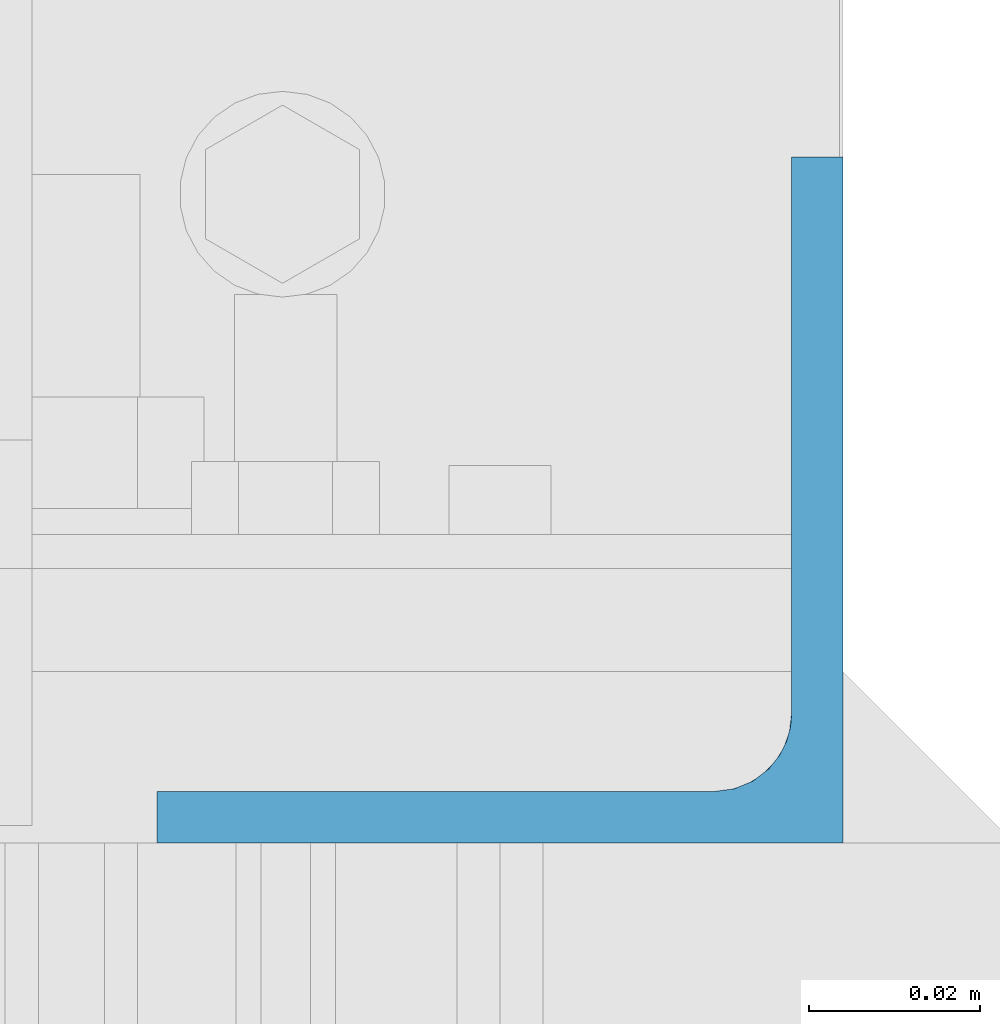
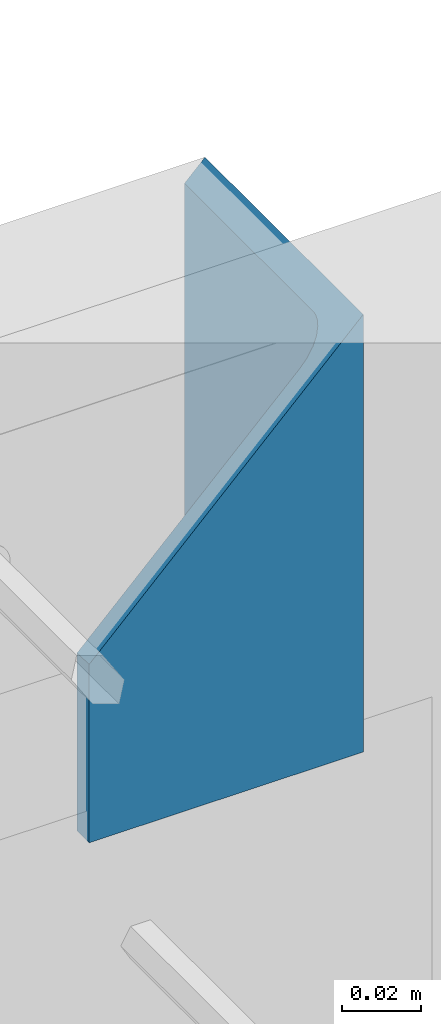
# One storey, part 82 of 271: 1 beam, 1 element without a shape of its own.
"""IFC2X3 building model written with IfcOpenShell, lengths in millimetres."""

from ifc_helpers import new_model, si_unit, frame, origin_with_axes, origin_2d_with_axis, place, context, subcontext, project, spatial, l_section, extrude, clip, halfspace, material, type_object, element, aggregate, save


model = new_model("IFC2X3")

# Units and contexts
model_context = context("Model", 3, precision=1e-05, world=origin_with_axes())
body_context = subcontext(model_context, "Body", "Model", "MODEL_VIEW")
ifc_project = project(units=[si_unit("LENGTHUNIT", "METRE", prefix="MILLI"), si_unit("AREAUNIT", "SQUARE_METRE"), si_unit("VOLUMEUNIT", "CUBIC_METRE"), si_unit("MASSUNIT", "GRAM", prefix="KILO"), si_unit("TIMEUNIT", "SECOND"), si_unit("PLANEANGLEUNIT", "RADIAN"), si_unit("SOLIDANGLEUNIT", "STERADIAN"), si_unit("THERMODYNAMICTEMPERATUREUNIT", "DEGREE_CELSIUS"), si_unit("LUMINOUSINTENSITYUNIT", "LUMEN")], contexts=[model_context])

# Site, building, storey
site_placement = place(None, origin_with_axes())
site = spatial("IfcSite", under=ifc_project, at=site_placement, Name="Undefined", CompositionType="ELEMENT")
building_placement = place(site_placement, origin_with_axes())
building = spatial("IfcBuilding", under=site, at=building_placement, Name="Undefined", CompositionType="ELEMENT")
storey_placement = place(building_placement, origin_with_axes())
storey = spatial("IfcBuildingStorey", under=building, at=storey_placement, Name="Undefined", CompositionType="ELEMENT", Elevation=0.0)

# Assembly, beam
assembly_placement = place(storey_placement, origin_with_axes())
assembly = element("IfcElementAssembly", 1, at=assembly_placement, inside=storey, AssemblyPlace="NOTDEFINED", PredefinedType="RIGID_FRAME")
ifc_material = material(Name="STEEL/S355JR")
beam_type = type_object("IfcBeamType", Name="L80*80*6", PredefinedType="NOTDEFINED")
beam_placement = place(assembly_placement, frame((12668.3756870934, 39.3249842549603, 20069.3499999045), z_axis=(0.0, 1.0, 0.0), x_axis=(0.0, 0.0, 1.0)))
beam = element("IfcBeam", 2, at=beam_placement, type_object=beam_type, material=ifc_material, Name="KĄTOWNIK", ObjectType="L80*80*6", context=body_context, shape_type="Clipping", body=[
    clip(extrude(l_section(Depth=80.0, Width=80.0, Thickness=6.0, FilletRadius=9.0, at=origin_2d_with_axis()), frame((135.4, 0.0, 0.0), z_axis=(-1.0, 0.0, 1.38777878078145e-17), x_axis=(0.0, -1.0, 0.0)), (0.0, 0.0, 1.0), 135.4), halfspace(frame((55.0, -40.0, 0.0), z_axis=(0.707106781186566, -0.707106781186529, 0.0), x_axis=(0.0, 0.0, 1.0)), False)),
])
aggregate(assembly, [beam])

save(model, "model.ifc")
